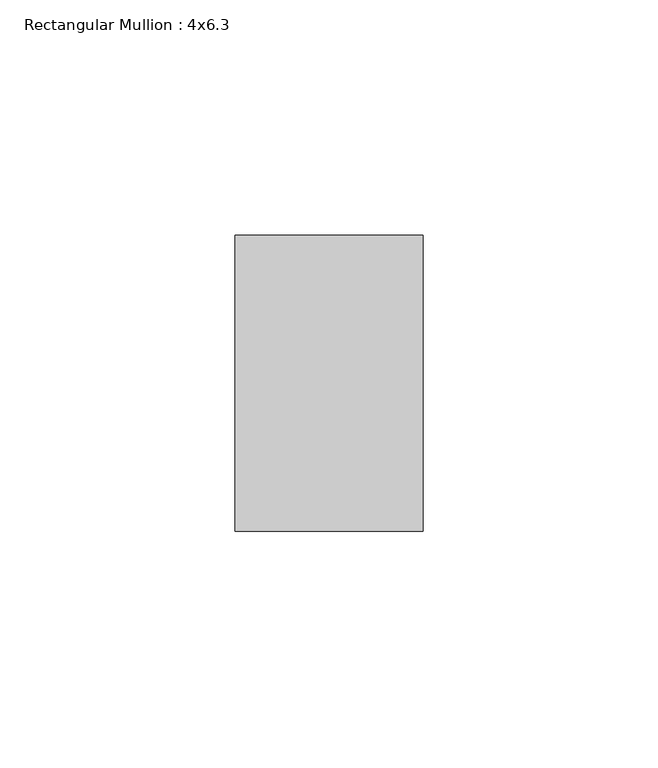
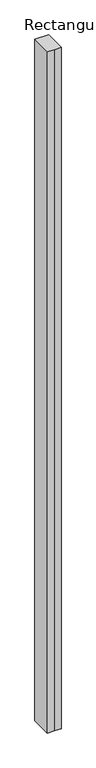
"""IFC4 building model written with IfcOpenShell, lengths in millimetres: member geometry, Rectangular Mullion : 4x6.3."""

from ifc_helpers import new_model, si_unit, frame, origin, place, context, project, spatial, polyline, outline, extrude, source, transform, mapped, element, save


def rectangular_mullion_4x6_3_2c75865a(model_context):
    return source(origin(), model_context, "Body", "SweptSolid", [
        extrude(outline(polyline([(-20.0, 20.0), (-20.0, 83.0), (20.0, 83.0), (20.0, 20.0), (0.0, 20.0), (-20.0, 20.0)])), frame((0.0, 0.0, -2107.263391), z_axis=(0.0, 0.0, 1.0), x_axis=(1.0, 0.0, 0.0)), (0.0, 0.0, 1.0), 2107.263391),
    ])


if __name__ == "__main__":
    model = new_model("IFC4")
    model_context = context("Model", 3, world=origin())
    ifc_project = project(units=[si_unit("LENGTHUNIT", "METRE", prefix="MILLI")], contexts=[model_context])
    site = spatial("IfcSite", under=ifc_project)
    building = spatial("IfcBuilding", under=site)
    placement = place(None, origin())
    rectangular_mullion_4x6_3_shape = rectangular_mullion_4x6_3_2c75865a(model_context)
    element("IfcMember", 1, ObjectType="Rectangular Mullion : 4x6.3", at=placement, inside=building, context=model_context, shape_type="MappedRepresentation", body=[
        mapped(rectangular_mullion_4x6_3_shape, transform((0.0, 0.0, 0.0), x_axis=(1.0, 0.0, 0.0), y_axis=(0.0, 1.0, 0.0), z_axis=(0.0, 0.0, 1.0))),
    ])
    save(model, "model.ifc")
